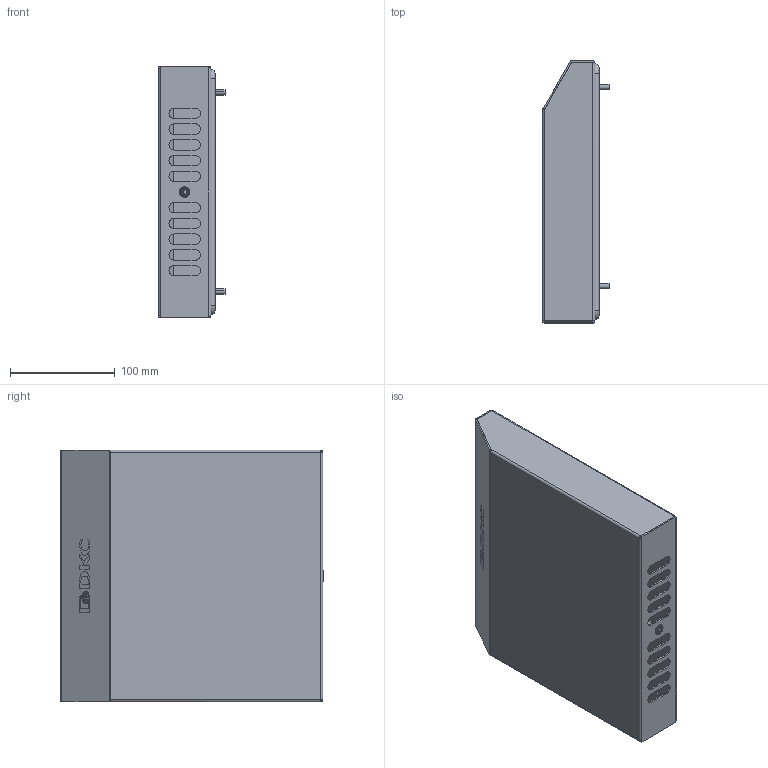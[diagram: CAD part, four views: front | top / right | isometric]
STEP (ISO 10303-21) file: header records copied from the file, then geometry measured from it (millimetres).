
FILE_DESCRIPTION (( 'STEP AP214' ), '1' );
FILE_NAME ('R5RK12.STEP', '2021-03-12T13:09:20', ( '' ), ( '' ), 'SwSTEP 2.0', 'SolidWorks 2020', '' );
FILE_SCHEMA (( 'AUTOMOTIVE_DESIGN' ));
Length unit declared in the file: millimetre
Products named in the file (8): RB.1673.00.01.0_-01; M6 art.MGR-MKO-0625; PF 5x10 Cover R5RK_R5KF12; RB.1673.00.00.0 捘_-01; RB.1674.00.00.0_-01; M5x12-DIN 7500M ISR_stright; M6x50 DIN 914 HX cl.4,8 Zinc_straight; R5RK12
Assembly tree (10 placements, depth 3):
  R5RK12
    RB.1673.00.00.0 捘_-01
      RB.1673.00.01.0_-01
      M6 art.MGR-MKO-0625
      PF 5x10 Cover R5RK_R5KF12
    RB.1674.00.00.0_-01
    M5x12-DIN 7500M ISR_stright  x4
    M6x50 DIN 914 HX cl.4,8 Zinc_straight
Bounding box: 64 x 250.5 x 240 mm (x, y, z)
Volume: 230170.8 mm3; surface area: 300689.8 mm2
Topology: 9 solids, 9 shells, 459 faces, 1123 edges, 694 vertices
Faces by surface type: plane 233, cylinder 118, bspline 64, cone 32, torus 12
Entity records: 14308 total; most frequent: CARTESIAN_POINT 3406, ORIENTED_EDGE 2038, DIRECTION 1847, EDGE_CURVE 1019, LINE 683, VECTOR 683, VERTEX_POINT 637, AXIS2_PLACEMENT_3D 582
